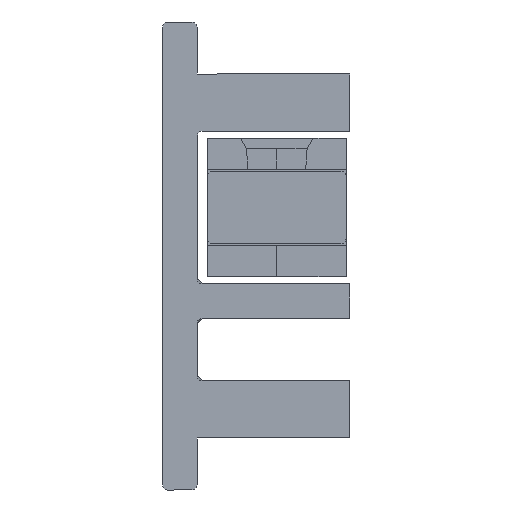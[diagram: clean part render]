
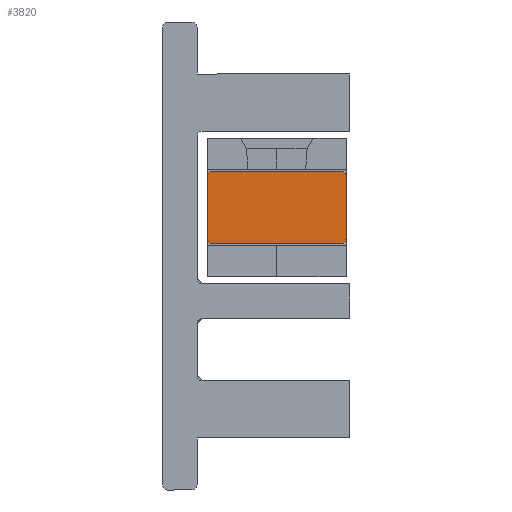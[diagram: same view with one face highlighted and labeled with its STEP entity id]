
A CAD part, front view. The second image highlights one B-rep face of the part: STEP entity #3820.
In plain terms, the highlighted planar face has unit normal (0, -1, 0) as drawn and (0.192, 0.275, 0.942) by its records, which use the part's own axes.
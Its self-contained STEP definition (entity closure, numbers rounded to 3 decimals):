
#39 = EDGE_CURVE ( 'NONE', #3956, #630, #1765, .T. ) ;
#132 = EDGE_CURVE ( 'NONE', #2376, #4336, #2686, .T. ) ;
#338 = LINE ( 'NONE', #4044, #5224 ) ;
#347 = VECTOR ( 'NONE', #5169, 1000. ) ;
#366 = DIRECTION ( 'NONE',  ( 0., 0.96, -0.28 ) ) ;
#368 = DIRECTION ( 'NONE',  ( 0.981, -0.054, -0.184 ) ) ;
#369 = DIRECTION ( 'NONE',  ( 0., -0.96, 0.28 ) ) ;
#478 = DIRECTION ( 'NONE',  ( -0.192, -0.275, -0.942 ) ) ;
#481 = AXIS2_PLACEMENT_3D ( 'NONE', #2355, #2650, #1090 ) ;
#524 = CIRCLE ( 'NONE', #3862, 0.3 ) ;
#630 = VERTEX_POINT ( 'NONE', #2957 ) ;
#661 = ORIENTED_EDGE ( 'NONE', *, *, #2974, .F. ) ;
#695 = FACE_OUTER_BOUND ( 'NONE', #2380, .T. ) ;
#1018 = VECTOR ( 'NONE', #366, 1000. ) ;
#1090 = DIRECTION ( 'NONE',  ( 0., 0.96, -0.28 ) ) ;
#1231 = DIRECTION ( 'NONE',  ( 0., 0.96, -0.28 ) ) ;
#1562 = ORIENTED_EDGE ( 'NONE', *, *, #4570, .F. ) ;
#1661 = CARTESIAN_POINT ( 'NONE',  ( 396.004, 561.545, 1924.14 ) ) ;
#1710 = VERTEX_POINT ( 'NONE', #5319 ) ;
#1765 = CIRCLE ( 'NONE', #1843, 0.3 ) ;
#1843 = AXIS2_PLACEMENT_3D ( 'NONE', #1661, #478, #1231 ) ;
#1867 = ORIENTED_EDGE ( 'NONE', *, *, #1969, .F. ) ;
#1951 = DIRECTION ( 'NONE',  ( -0.192, -0.275, -0.942 ) ) ;
#1969 = EDGE_CURVE ( 'NONE', #4336, #3956, #338, .T. ) ;
#2049 = DIRECTION ( 'NONE',  ( 0., 0.96, -0.28 ) ) ;
#2069 = ORIENTED_EDGE ( 'NONE', *, *, #132, .F. ) ;
#2161 = EDGE_CURVE ( 'NONE', #3334, #2376, #3214, .T. ) ;
#2223 = CARTESIAN_POINT ( 'NONE',  ( 392.471, 569.131, 1922.647 ) ) ;
#2355 = CARTESIAN_POINT ( 'NONE',  ( 396.004, 568.649, 1922.068 ) ) ;
#2371 = CIRCLE ( 'NONE', #3413, 0.3 ) ;
#2376 = VERTEX_POINT ( 'NONE', #4858 ) ;
#2380 = EDGE_LOOP ( 'NONE', ( #4984, #4923, #661, #4505, #1562, #5181, #1867, #2069 ) ) ;
#2650 = DIRECTION ( 'NONE',  ( -0.192, -0.275, -0.942 ) ) ;
#2686 = CIRCLE ( 'NONE', #481, 0.3 ) ;
#2803 = VERTEX_POINT ( 'NONE', #5221 ) ;
#2843 = PLANE ( 'NONE',  #5068 ) ;
#2957 = CARTESIAN_POINT ( 'NONE',  ( 396.004, 561.257, 1924.224 ) ) ;
#2974 = EDGE_CURVE ( 'NONE', #1710, #2803, #4748, .T. ) ;
#3180 = EDGE_CURVE ( 'NONE', #2803, #3334, #2371, .T. ) ;
#3214 = LINE ( 'NONE', #4857, #3244 ) ;
#3244 = VECTOR ( 'NONE', #368, 1000. ) ;
#3334 = VERTEX_POINT ( 'NONE', #2223 ) ;
#3362 = CARTESIAN_POINT ( 'NONE',  ( 392.471, 561.739, 1924.804 ) ) ;
#3383 = DIRECTION ( 'NONE',  ( 0., 0.96, -0.28 ) ) ;
#3413 = AXIS2_PLACEMENT_3D ( 'NONE', #4092, #4965, #2049 ) ;
#3474 = CARTESIAN_POINT ( 'NONE',  ( 396.298, 561.529, 1924.085 ) ) ;
#3484 = LINE ( 'NONE', #5141, #347 ) ;
#3814 = CARTESIAN_POINT ( 'NONE',  ( 396.298, 568.633, 1922.013 ) ) ;
#3820 = ADVANCED_FACE ( 'NONE', ( #695 ), #2843, .F. ) ;
#3862 = AXIS2_PLACEMENT_3D ( 'NONE', #3362, #5109, #3383 ) ;
#3956 = VERTEX_POINT ( 'NONE', #3474 ) ;
#4009 = CARTESIAN_POINT ( 'NONE',  ( 392.176, 568.859, 1922.787 ) ) ;
#4044 = CARTESIAN_POINT ( 'NONE',  ( 396.298, 568.633, 1922.013 ) ) ;
#4092 = CARTESIAN_POINT ( 'NONE',  ( 392.471, 568.843, 1922.731 ) ) ;
#4206 = VERTEX_POINT ( 'NONE', #4579 ) ;
#4336 = VERTEX_POINT ( 'NONE', #3814 ) ;
#4404 = EDGE_CURVE ( 'NONE', #4206, #1710, #524, .T. ) ;
#4505 = ORIENTED_EDGE ( 'NONE', *, *, #4404, .F. ) ;
#4570 = EDGE_CURVE ( 'NONE', #630, #4206, #3484, .T. ) ;
#4579 = CARTESIAN_POINT ( 'NONE',  ( 392.471, 561.451, 1924.888 ) ) ;
#4748 = LINE ( 'NONE', #4009, #1018 ) ;
#4838 = DIRECTION ( 'NONE',  ( 0., 0.96, -0.28 ) ) ;
#4857 = CARTESIAN_POINT ( 'NONE',  ( 392.471, 569.131, 1922.647 ) ) ;
#4858 = CARTESIAN_POINT ( 'NONE',  ( 396.004, 568.937, 1921.984 ) ) ;
#4900 = CARTESIAN_POINT ( 'NONE',  ( 378.24, -169.175, 2140.895 ) ) ;
#4923 = ORIENTED_EDGE ( 'NONE', *, *, #3180, .F. ) ;
#4965 = DIRECTION ( 'NONE',  ( -0.192, -0.275, -0.942 ) ) ;
#4984 = ORIENTED_EDGE ( 'NONE', *, *, #2161, .F. ) ;
#5068 = AXIS2_PLACEMENT_3D ( 'NONE', #4900, #1951, #4838 ) ;
#5109 = DIRECTION ( 'NONE',  ( -0.192, -0.275, -0.942 ) ) ;
#5141 = CARTESIAN_POINT ( 'NONE',  ( 392.471, 561.451, 1924.888 ) ) ;
#5169 = DIRECTION ( 'NONE',  ( -0.981, 0.054, 0.184 ) ) ;
#5181 = ORIENTED_EDGE ( 'NONE', *, *, #39, .F. ) ;
#5221 = CARTESIAN_POINT ( 'NONE',  ( 392.176, 568.859, 1922.787 ) ) ;
#5224 = VECTOR ( 'NONE', #369, 1000. ) ;
#5319 = CARTESIAN_POINT ( 'NONE',  ( 392.176, 561.755, 1924.859 ) ) ;
